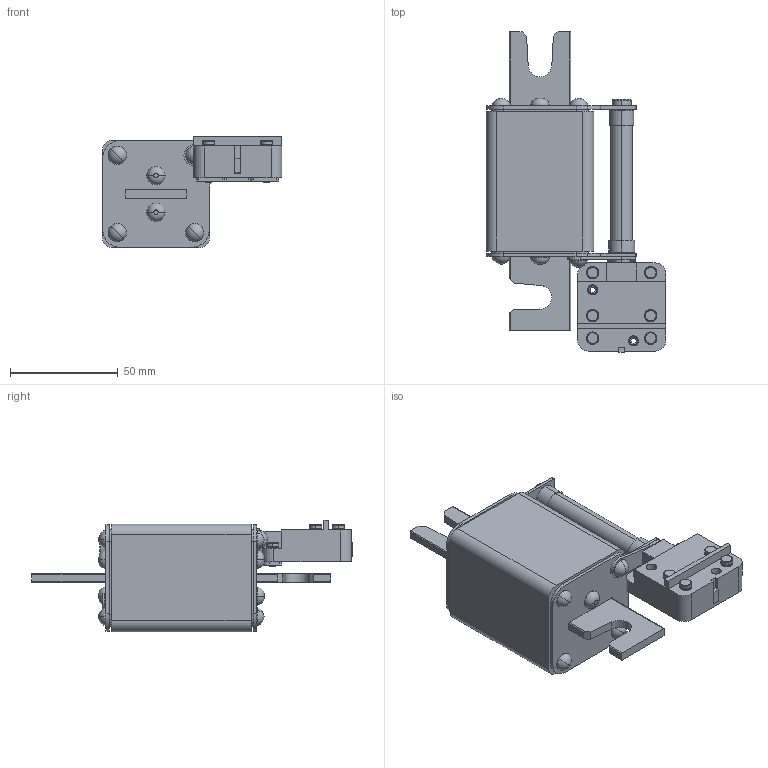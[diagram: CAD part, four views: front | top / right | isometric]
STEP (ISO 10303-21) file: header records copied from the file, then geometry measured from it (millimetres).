
FILE_DESCRIPTION (( 'STEP AP214' ), '1' );
FILE_NAME ('Ïðåäîõðàíèòåëü ÏÍÁ5-380_250-4.STEP', '2023-04-20T10:44:26', ( '' ), ( '' ), 'SwSTEP 2.0', 'SolidWorks 2018', '' );
FILE_SCHEMA (( 'AUTOMOTIVE_DESIGN' ));
Length unit declared in the file: millimetre
Products named in the file (1): Ïðåäîõðàíèòåëü ÏÍÁ5-380_250-4
Bounding box: 83.5 x 149 x 51.8 mm (x, y, z)
Volume: 213423.3 mm3; surface area: 70822.3 mm2
Topology: 50 solids, 50 shells, 1047 faces, 2456 edges, 1535 vertices
Faces by surface type: plane 469, cylinder 398, torus 106, cone 56, sphere 18
Entity records: 42272 total; most frequent: DIRECTION 5642, CARTESIAN_POINT 5051, ORIENTED_EDGE 4912, EDGE_CURVE 2456, AXIS2_PLACEMENT_3D 2142, VERTEX_POINT 1535, LINE 1358, VECTOR 1358
